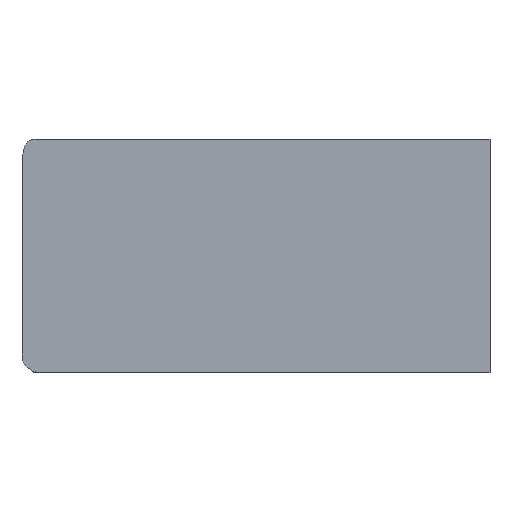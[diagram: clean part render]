
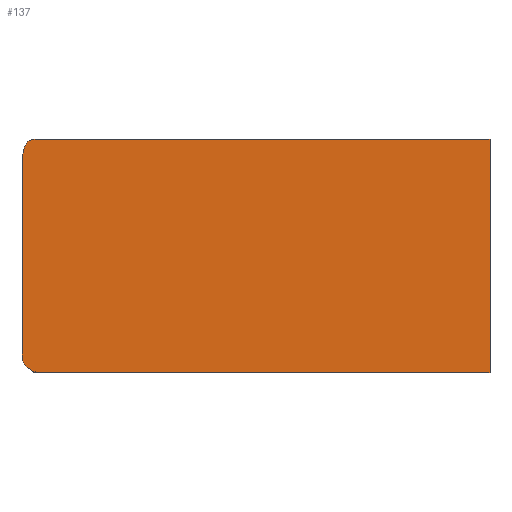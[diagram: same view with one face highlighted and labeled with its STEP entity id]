
A CAD part, top view. The second image highlights one B-rep face of the part: STEP entity #137.
In plain terms, the highlighted planar face has unit normal (0, 0, 1).
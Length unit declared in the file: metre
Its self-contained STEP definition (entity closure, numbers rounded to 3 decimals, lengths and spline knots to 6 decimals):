
#14=PLANE('',#150);
#20=LINE('',#226,#30);
#22=LINE('',#244,#32);
#24=LINE('',#255,#34);
#27=LINE('',#261,#37);
#28=LINE('',#265,#38);
#29=LINE('',#313,#39);
#30=VECTOR('',#153,1.);
#32=VECTOR('',#159,1.);
#34=VECTOR('',#163,1.);
#37=VECTOR('',#170,1.);
#38=VECTOR('',#175,1.);
#39=VECTOR('',#176,1.);
#68=ORIENTED_EDGE('',*,*,#76,.F.);
#69=ORIENTED_EDGE('',*,*,#85,.T.);
#70=ORIENTED_EDGE('',*,*,#92,.F.);
#71=ORIENTED_EDGE('',*,*,#93,.F.);
#72=ORIENTED_EDGE('',*,*,#90,.F.);
#73=ORIENTED_EDGE('',*,*,#88,.F.);
#74=ORIENTED_EDGE('',*,*,#82,.T.);
#75=ORIENTED_EDGE('',*,*,#77,.T.);
#76=EDGE_CURVE('',#94,#95,#106,.T.);
#77=EDGE_CURVE('',#96,#95,#20,.T.);
#82=EDGE_CURVE('',#98,#96,#22,.F.);
#85=EDGE_CURVE('',#94,#101,#24,.T.);
#88=EDGE_CURVE('',#98,#103,#27,.T.);
#90=EDGE_CURVE('',#103,#104,#28,.F.);
#92=EDGE_CURVE('',#105,#101,#111,.F.);
#93=EDGE_CURVE('',#104,#105,#29,.F.);
#94=VERTEX_POINT('',#224);
#95=VERTEX_POINT('',#225);
#96=VERTEX_POINT('',#227);
#98=VERTEX_POINT('',#241);
#101=VERTEX_POINT('',#254);
#103=VERTEX_POINT('',#262);
#104=VERTEX_POINT('',#266);
#105=VERTEX_POINT('',#312);
#106=B_SPLINE_CURVE_WITH_KNOTS('',3,(#220,#221,#222,#223),.UNSPECIFIED.,
 .F.,.F.,(4,4),(0.,0.000059),.UNSPECIFIED.);
#111=B_SPLINE_CURVE_WITH_KNOTS('',3,(#307,#308,#309,#310,#311),
 .UNSPECIFIED.,.F.,.F.,(4,1,4),(0.00003,0.002231,
0.004432),.UNSPECIFIED.);
#119=EDGE_LOOP('',(#68,#69,#70,#71,#72,#73,#74,#75));
#127=FACE_BOUND('',#119,.T.);
#137=ADVANCED_FACE('',(#127),#14,.T.);
#150=AXIS2_PLACEMENT_3D('',#314,#177,#178);
#153=DIRECTION('',(-1.,0.,0.));
#159=DIRECTION('',(1.,0.,0.));
#163=DIRECTION('',(0.,-1.,0.));
#170=DIRECTION('',(0.,-1.,0.));
#175=DIRECTION('',(1.,0.,0.));
#176=DIRECTION('',(1.,0.,0.));
#177=DIRECTION('',(0.,0.,1.));
#178=DIRECTION('',(1.,0.,0.));
#220=CARTESIAN_POINT('',(0.028598,0.001201,-0.03));
#221=CARTESIAN_POINT('',(0.028598,0.00122,-0.03));
#222=CARTESIAN_POINT('',(0.028603,0.001249,-0.03));
#223=CARTESIAN_POINT('',(0.028623,0.00125,-0.03));
#224=CARTESIAN_POINT('',(0.028598,0.001201,-0.03));
#225=CARTESIAN_POINT('',(0.028623,0.00125,-0.03));
#226=CARTESIAN_POINT('',(0.029108,0.00125,-0.03));
#227=CARTESIAN_POINT('',(0.029593,0.00125,-0.03));
#241=CARTESIAN_POINT('',(0.029598,0.00125,-0.03));
#244=CARTESIAN_POINT('',(0.033673,0.00125,-0.03));
#254=CARTESIAN_POINT('',(0.028598,0.000799,-0.03));
#255=CARTESIAN_POINT('',(0.028598,0.001201,-0.03));
#261=CARTESIAN_POINT('',(0.029598,0.00125,-0.03));
#262=CARTESIAN_POINT('',(0.029598,0.00075,-0.03));
#265=CARTESIAN_POINT('',(0.029598,0.00075,-0.03));
#266=CARTESIAN_POINT('',(0.029593,0.00075,-0.03));
#307=CARTESIAN_POINT('',(0.028598,0.000799,-0.03));
#308=CARTESIAN_POINT('',(0.028597,0.000785,-0.03));
#309=CARTESIAN_POINT('',(0.028597,0.000763,-0.03));
#310=CARTESIAN_POINT('',(0.028631,0.00075,-0.03));
#311=CARTESIAN_POINT('',(0.028623,0.00075,-0.03));
#312=CARTESIAN_POINT('',(0.028623,0.00075,-0.03));
#313=CARTESIAN_POINT('',(0.029079,0.00075,-0.03));
#314=CARTESIAN_POINT('',(0.033673,0.002625,-0.03));
